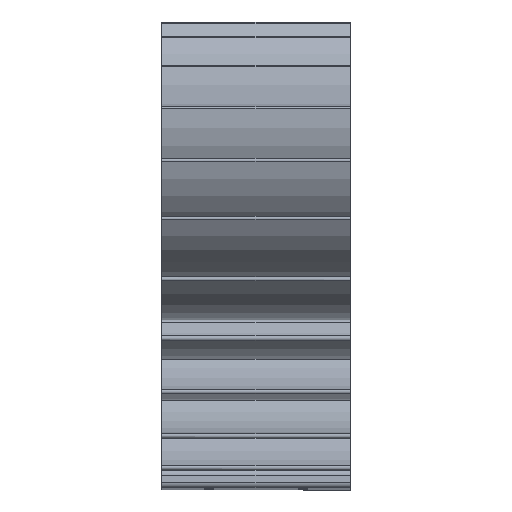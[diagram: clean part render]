
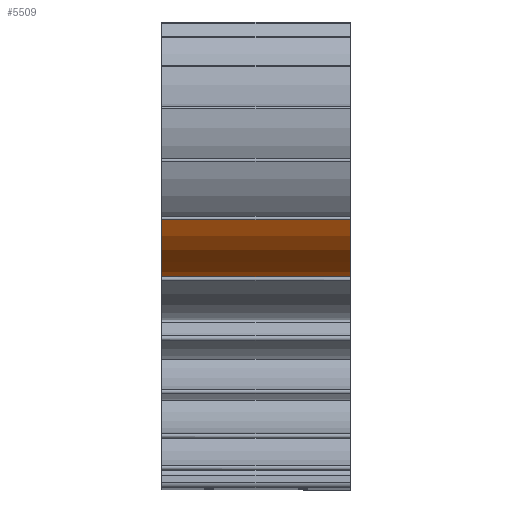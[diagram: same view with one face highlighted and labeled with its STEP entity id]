
A CAD part, left-side view. The second image highlights one B-rep face of the part: STEP entity #5509.
In plain terms, the highlighted cylindrical face has radius 24 mm (diameter 48 mm), a partial arc.
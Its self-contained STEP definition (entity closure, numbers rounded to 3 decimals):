
#150=CARTESIAN_POINT('',(-27.453,0.,18.22));
#151=DIRECTION('',(0.,1.,0.));
#152=DIRECTION('',(0.212,0.,-0.977));
#153=AXIS2_PLACEMENT_3D('',#150,#151,#152);
#155=CARTESIAN_POINT('',(-49.011,0.,7.678));
#1021=CARTESIAN_POINT('',(-27.453,40.,18.22));
#1022=DIRECTION('',(0.,1.,0.));
#1023=DIRECTION('',(0.212,0.,-0.977));
#1024=AXIS2_PLACEMENT_3D('',#1021,#1022,#1023);
#2148=DIRECTION('',(0.,-1.,0.));
#2149=VECTOR('',#2148,40.);
#2150=CARTESIAN_POINT('',(-49.011,40.,7.678));
#2151=LINE('',#2150,#2149);
#2152=DIRECTION('',(0.,-1.,0.));
#2153=VECTOR('',#2152,40.);
#2154=CARTESIAN_POINT('',(-22.358,40.,-5.233));
#2155=LINE('',#2154,#2153);
#3136=CARTESIAN_POINT('',(-22.358,40.,-5.233));
#3137=CARTESIAN_POINT('',(-22.358,0.,-5.233));
#3138=VERTEX_POINT('',#3136);
#3139=VERTEX_POINT('',#3137);
#3404=VERTEX_POINT('',#155);
#3406=CARTESIAN_POINT('',(-49.011,40.,7.678));
#3407=VERTEX_POINT('',#3406);
#5497=CARTESIAN_POINT('',(-27.453,40.,18.22));
#5498=DIRECTION('',(0.,1.,0.));
#5499=DIRECTION('',(0.707,0.,-0.707));
#5500=AXIS2_PLACEMENT_3D('',#5497,#5498,#5499);
#5501=CYLINDRICAL_SURFACE('',#5500,24.);
#5503=ORIENTED_EDGE('',*,*,#5502,.T.);
#5504=ORIENTED_EDGE('',*,*,#3729,.F.);
#5505=ORIENTED_EDGE('',*,*,#5491,.F.);
#5506=ORIENTED_EDGE('',*,*,#4259,.T.);
#5507=EDGE_LOOP('',(#5503,#5504,#5505,#5506));
#5508=FACE_OUTER_BOUND('',#5507,.F.);
#5509=ADVANCED_FACE('',(#5508),#5501,.T.);
#154=CIRCLE('',#153,24.);
#1025=CIRCLE('',#1024,24.);
#3729=EDGE_CURVE('',#3139,#3404,#154,.T.);
#4259=EDGE_CURVE('',#3138,#3407,#1025,.T.);
#5491=EDGE_CURVE('',#3138,#3139,#2155,.T.);
#5502=EDGE_CURVE('',#3407,#3404,#2151,.T.);
